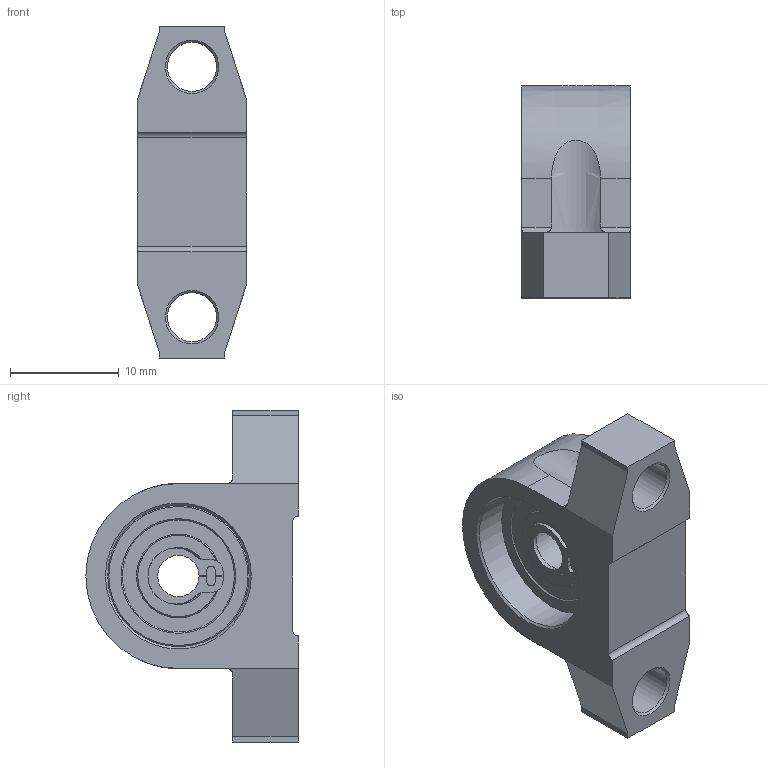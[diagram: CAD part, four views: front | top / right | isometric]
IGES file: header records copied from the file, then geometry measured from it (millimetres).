
Global section: file name:  ; native system: Kubotek KeyCreator; preprocessor: KCM Version 1.1.28; author: KeyCreator•p{ž; organization: Self; date: 20161124.012309; units: millimetre
Bounding box: 10 x 19.5 x 30.5 mm (x, y, z)
Surface area: 2004.6 mm2 (no closed solid volume)
Topology: 0 solids, 0 shells, 80 faces, 388 edges, 363 vertices
Faces by surface type: plane 44, revolution 36
